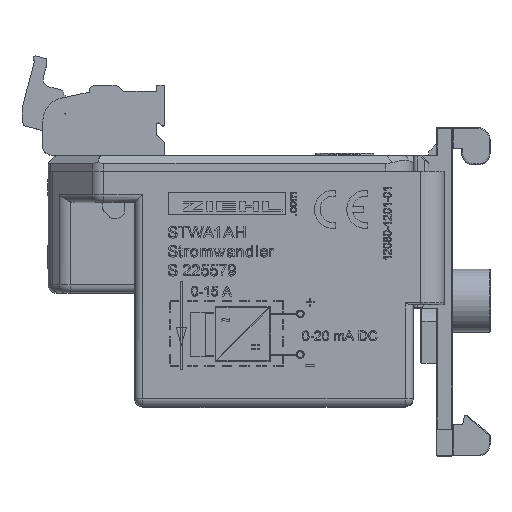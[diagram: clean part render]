
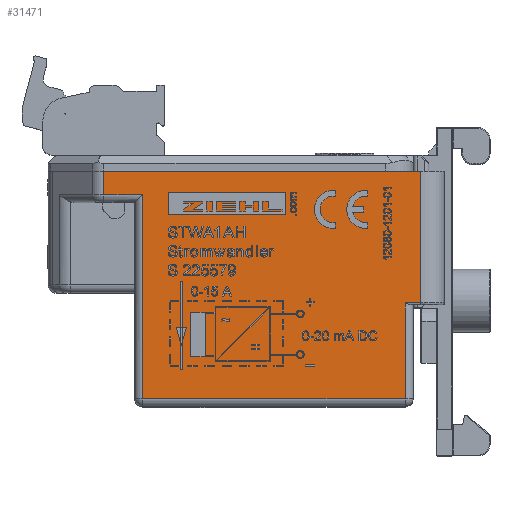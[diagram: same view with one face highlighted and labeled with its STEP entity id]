
A CAD part, top view. The second image highlights one B-rep face of the part: STEP entity #31471.
In plain terms, the highlighted planar face has unit normal (0, 0, 1).
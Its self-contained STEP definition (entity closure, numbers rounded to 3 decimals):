
#933 = DIRECTION ( 'NONE',  ( 1., 0., 0. ) ) ;
#1060 = CARTESIAN_POINT ( 'NONE',  ( 0., 13.2, 0. ) ) ;
#2212 = LINE ( 'NONE', #69721, #3985 ) ;
#3985 = VECTOR ( 'NONE', #35976, 1000. ) ;
#4284 = VERTEX_POINT ( 'NONE', #62573 ) ;
#10202 = EDGE_LOOP ( 'NONE', ( #26715, #38045, #33291, #24922, #68999, #37883, #27787, #36221 ) ) ;
#10715 = CARTESIAN_POINT ( 'NONE',  ( 35.5, 1., 0. ) ) ;
#13000 = EDGE_CURVE ( 'NONE', #35222, #51278, #73053, .T. ) ;
#13078 = LINE ( 'NONE', #20587, #71397 ) ;
#13750 = VERTEX_POINT ( 'NONE', #27143 ) ;
#16039 = FACE_OUTER_BOUND ( 'NONE', #10202, .T. ) ;
#16524 = DIRECTION ( 'NONE',  ( 0., 1., 0. ) ) ;
#16913 = EDGE_CURVE ( 'NONE', #31956, #45085, #2212, .T. ) ;
#18774 = LINE ( 'NONE', #1060, #32064 ) ;
#20587 = CARTESIAN_POINT ( 'NONE',  ( -3.922, 26., 0. ) ) ;
#20864 = PLANE ( 'NONE',  #68184 ) ;
#22823 = EDGE_CURVE ( 'NONE', #51278, #44156, #30194, .T. ) ;
#22858 = EDGE_CURVE ( 'NONE', #13750, #4284, #34591, .T. ) ;
#24922 = ORIENTED_EDGE ( 'NONE', *, *, #51515, .F. ) ;
#26541 = DIRECTION ( 'NONE',  ( -1., 0., 0. ) ) ;
#26715 = ORIENTED_EDGE ( 'NONE', *, *, #22858, .T. ) ;
#27143 = CARTESIAN_POINT ( 'NONE',  ( 34.5, 1., 0. ) ) ;
#27787 = ORIENTED_EDGE ( 'NONE', *, *, #22823, .T. ) ;
#27922 = CARTESIAN_POINT ( 'NONE',  ( 34.5, 30., 0. ) ) ;
#29080 = CARTESIAN_POINT ( 'NONE',  ( 0., 30., 0. ) ) ;
#29834 = VECTOR ( 'NONE', #38939, 1000. ) ;
#30194 = LINE ( 'NONE', #61250, #49613 ) ;
#31471 = ADVANCED_FACE ( 'NONE', ( #16039 ), #20864, .F. ) ;
#31956 = VERTEX_POINT ( 'NONE', #37554 ) ;
#32064 = VECTOR ( 'NONE', #46264, 1000. ) ;
#33291 = ORIENTED_EDGE ( 'NONE', *, *, #16913, .T. ) ;
#34591 = LINE ( 'NONE', #27922, #47839 ) ;
#35222 = VERTEX_POINT ( 'NONE', #47252 ) ;
#35976 = DIRECTION ( 'NONE',  ( 0., 1., 0. ) ) ;
#36221 = ORIENTED_EDGE ( 'NONE', *, *, #61324, .T. ) ;
#37554 = CARTESIAN_POINT ( 'NONE',  ( 36.5, 13.2, 0. ) ) ;
#37617 = DIRECTION ( 'NONE',  ( 0., -1., 0. ) ) ;
#37883 = ORIENTED_EDGE ( 'NONE', *, *, #13000, .T. ) ;
#38045 = ORIENTED_EDGE ( 'NONE', *, *, #54548, .T. ) ;
#38939 = DIRECTION ( 'NONE',  ( 1., 0., 0. ) ) ;
#39137 = DIRECTION ( 'NONE',  ( 1., 0., 0. ) ) ;
#43784 = VERTEX_POINT ( 'NONE', #49808 ) ;
#44116 = EDGE_CURVE ( 'NONE', #43784, #35222, #13078, .T. ) ;
#44156 = VERTEX_POINT ( 'NONE', #54638 ) ;
#44435 = CARTESIAN_POINT ( 'NONE',  ( 1., 27., 0. ) ) ;
#45085 = VERTEX_POINT ( 'NONE', #47387 ) ;
#45826 = LINE ( 'NONE', #10715, #60823 ) ;
#46264 = DIRECTION ( 'NONE',  ( 1., 0., 0. ) ) ;
#47252 = CARTESIAN_POINT ( 'NONE',  ( -3.922, 27., 0. ) ) ;
#47387 = CARTESIAN_POINT ( 'NONE',  ( 36.5, 30., 0. ) ) ;
#47839 = VECTOR ( 'NONE', #16524, 1000. ) ;
#49007 = CARTESIAN_POINT ( 'NONE',  ( 0., 30., 0. ) ) ;
#49613 = VECTOR ( 'NONE', #56058, 1000. ) ;
#49808 = CARTESIAN_POINT ( 'NONE',  ( -3.922, 30., 0. ) ) ;
#49954 = VECTOR ( 'NONE', #933, 1000. ) ;
#51278 = VERTEX_POINT ( 'NONE', #44435 ) ;
#51515 = EDGE_CURVE ( 'NONE', #43784, #45085, #64921, .T. ) ;
#54548 = EDGE_CURVE ( 'NONE', #4284, #31956, #18774, .T. ) ;
#54638 = CARTESIAN_POINT ( 'NONE',  ( 1., 1., 0. ) ) ;
#55719 = CARTESIAN_POINT ( 'NONE',  ( 0., 27., 0. ) ) ;
#56058 = DIRECTION ( 'NONE',  ( 0., -1., 0. ) ) ;
#60366 = DIRECTION ( 'NONE',  ( 0., 0., -1. ) ) ;
#60823 = VECTOR ( 'NONE', #39137, 1000. ) ;
#61250 = CARTESIAN_POINT ( 'NONE',  ( 1., 30., 0. ) ) ;
#61324 = EDGE_CURVE ( 'NONE', #44156, #13750, #45826, .T. ) ;
#62573 = CARTESIAN_POINT ( 'NONE',  ( 34.5, 13.2, 0. ) ) ;
#64921 = LINE ( 'NONE', #29080, #49954 ) ;
#68184 = AXIS2_PLACEMENT_3D ( 'NONE', #49007, #60366, #26541 ) ;
#68999 = ORIENTED_EDGE ( 'NONE', *, *, #44116, .T. ) ;
#69721 = CARTESIAN_POINT ( 'NONE',  ( 36.5, 30., 0. ) ) ;
#71397 = VECTOR ( 'NONE', #37617, 1000. ) ;
#73053 = LINE ( 'NONE', #55719, #29834 ) ;
